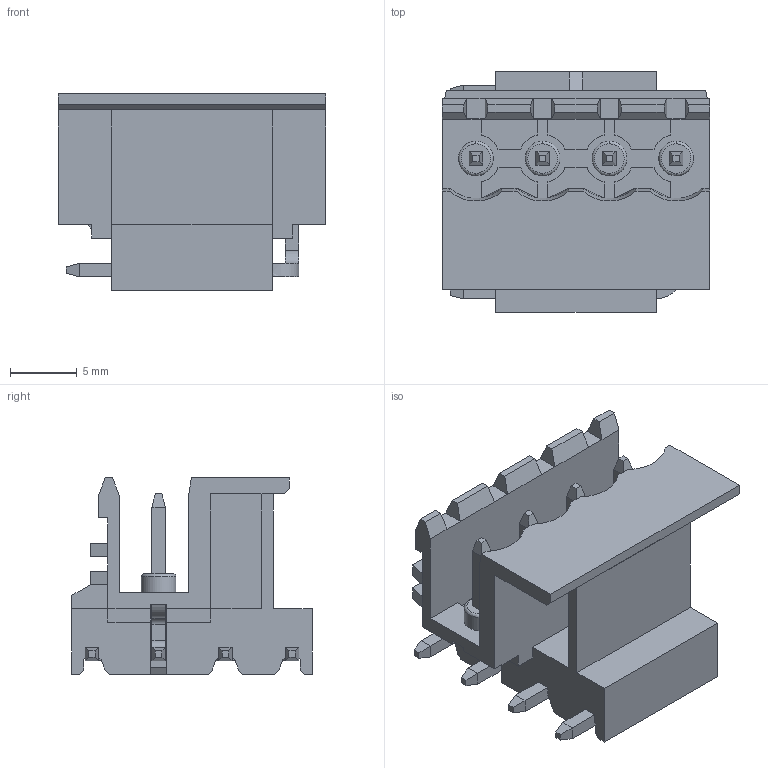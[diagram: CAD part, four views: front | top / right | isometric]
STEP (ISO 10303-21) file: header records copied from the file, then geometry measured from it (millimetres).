
FILE_DESCRIPTION(('FreeCAD Model'),'2;1');
FILE_NAME('Open CASCADE Shape Model','2023-04-26T12:01:45',('Author'),( ''),'Open CASCADE STEP processor 7.6','FreeCAD','Unknown');
FILE_SCHEMA(('AUTOMOTIVE_DESIGN { 1 0 10303 214 1 1 1 1 }'));
Length unit declared in the file: millimetre
Products named in the file (1): BR1704-PE
Bounding box: 20 x 18 x 14.7 mm (x, y, z)
Volume: 1468.1 mm3; surface area: 3053.2 mm2
Topology: 1 solids, 2 shells, 383 faces, 1051 edges, 672 vertices
Faces by surface type: bspline 383
Entity records: 27200 total; most frequent: CARTESIAN_POINT 13444, B_SPLINE_CURVE_WITH_KNOTS 2998, ORIENTED_EDGE 2106, PCURVE 2102, DEFINITIONAL_REPRESENTATION 2102, EDGE_CURVE 1051, SURFACE_CURVE 1051, VERTEX_POINT 672
